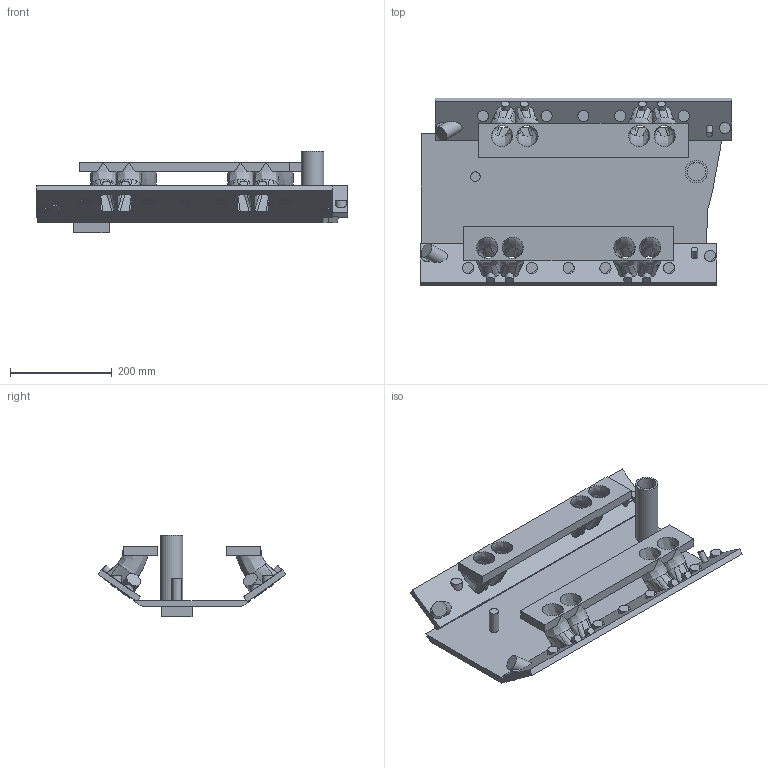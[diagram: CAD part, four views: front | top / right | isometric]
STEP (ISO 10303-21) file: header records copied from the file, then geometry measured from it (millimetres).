
FILE_DESCRIPTION(('Open CASCADE Model'),'2;1');
FILE_NAME('Open CASCADE Shape Model','2026-09-28T12:24:40',('Author'),( 'Open CASCADE'),'Open CASCADE STEP processor 8.0','build123d', 'Unknown');
FILE_SCHEMA(('AUTOMOTIVE_DESIGN { 1 0 10303 214 1 1 1 1 }'));
Length unit declared in the file: millimetre
Products named in the file (1): SOLID
Bounding box: 612 x 369.55 x 161 mm (x, y, z)
Volume: 3878448.7 mm3; surface area: 842150.5 mm2
Topology: 1 solids, 1 shells, 346 faces, 943 edges, 606 vertices
Faces by surface type: bspline 176, plane 123, cylinder 47
Full cylindrical faces by diameter (mm): 12 x2, 19 x1, 22 x12, 30 x2, 36 x1, 44 x1
Entity records: 46806 total; most frequent: CARTESIAN_POINT 31104, DIRECTION 2012, ORIENTED_EDGE 1846, PCURVE 1838, DEFINITIONAL_REPRESENTATION 1838, B_SPLINE_CURVE_WITH_KNOTS 1365, EDGE_CURVE 919, SURFACE_CURVE 888
